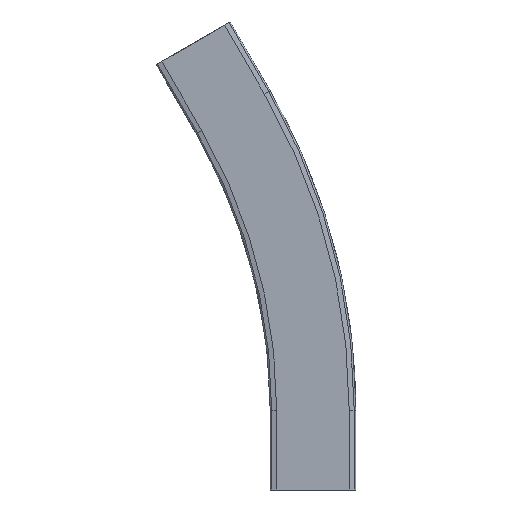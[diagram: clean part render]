
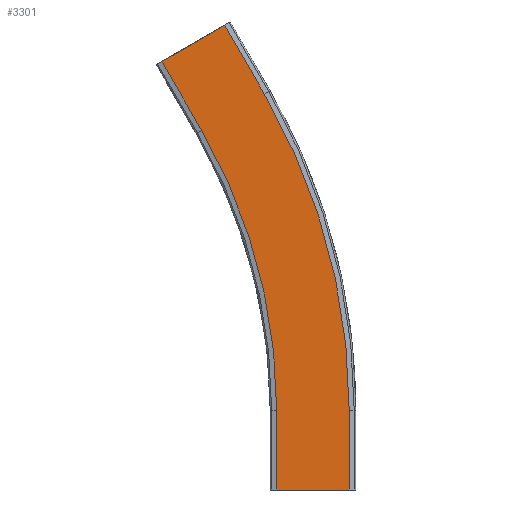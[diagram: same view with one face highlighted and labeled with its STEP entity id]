
A CAD part, front view. The second image highlights one B-rep face of the part: STEP entity #3301.
In plain terms, the highlighted planar face has unit normal (0, -1, 0).
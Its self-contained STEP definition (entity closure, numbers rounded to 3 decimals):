
#343=FACE_OUTER_BOUND('',#523,.T.);
#523=EDGE_LOOP('',(#3005,#3006,#3007,#3008,#3009,#3010,#3011,#3012));
#605=CIRCLE('',#3548,636.5);
#608=CIRCLE('',#3554,563.5);
#926=LINE('',#5781,#1272);
#931=LINE('',#5790,#1277);
#933=LINE('',#5795,#1279);
#948=LINE('',#5835,#1294);
#953=LINE('',#5846,#1299);
#954=LINE('',#5848,#1300);
#1272=VECTOR('',#4309,10.);
#1277=VECTOR('',#4316,10.);
#1279=VECTOR('',#4320,10.);
#1294=VECTOR('',#4361,10.);
#1299=VECTOR('',#4374,10.);
#1300=VECTOR('',#4377,10.);
#1588=VERTEX_POINT('',#5778);
#1589=VERTEX_POINT('',#5780);
#1592=VERTEX_POINT('',#5787);
#1593=VERTEX_POINT('',#5792);
#1603=VERTEX_POINT('',#5818);
#1605=VERTEX_POINT('',#5828);
#1606=VERTEX_POINT('',#5833);
#1608=VERTEX_POINT('',#5844);
#2044=EDGE_CURVE('',#1589,#1588,#926,.T.);
#2049=EDGE_CURVE('',#1589,#1592,#931,.T.);
#2051=EDGE_CURVE('',#1588,#1593,#933,.T.);
#2064=EDGE_CURVE('',#1593,#1603,#605,.T.);
#2070=EDGE_CURVE('',#1592,#1605,#608,.T.);
#2072=EDGE_CURVE('',#1603,#1606,#948,.T.);
#2077=EDGE_CURVE('',#1605,#1608,#953,.T.);
#2078=EDGE_CURVE('',#1606,#1608,#954,.T.);
#3005=ORIENTED_EDGE('',*,*,#2078,.T.);
#3006=ORIENTED_EDGE('',*,*,#2077,.F.);
#3007=ORIENTED_EDGE('',*,*,#2070,.F.);
#3008=ORIENTED_EDGE('',*,*,#2049,.F.);
#3009=ORIENTED_EDGE('',*,*,#2044,.T.);
#3010=ORIENTED_EDGE('',*,*,#2051,.T.);
#3011=ORIENTED_EDGE('',*,*,#2064,.T.);
#3012=ORIENTED_EDGE('',*,*,#2072,.T.);
#3130=PLANE('',#3560);
#3301=ADVANCED_FACE('',(#343),#3130,.T.);
#3548=AXIS2_PLACEMENT_3D('',#5820,#4341,#4342);
#3554=AXIS2_PLACEMENT_3D('',#5831,#4356,#4357);
#3560=AXIS2_PLACEMENT_3D('',#5847,#4375,#4376);
#4309=DIRECTION('',(1.,0.,0.));
#4316=DIRECTION('',(0.,0.,1.));
#4320=DIRECTION('',(0.,0.,1.));
#4341=DIRECTION('center_axis',(0.,-1.,0.));
#4342=DIRECTION('ref_axis',(1.,0.,0.));
#4356=DIRECTION('center_axis',(0.,-1.,0.));
#4357=DIRECTION('ref_axis',(1.,0.,0.));
#4361=DIRECTION('',(-0.5,0.,0.866));
#4374=DIRECTION('',(-0.5,0.,0.866));
#4375=DIRECTION('center_axis',(0.,-1.,0.));
#4376=DIRECTION('ref_axis',(0.5,0.,-0.866));
#4377=DIRECTION('',(-0.866,0.,-0.5));
#5778=CARTESIAN_POINT('',(36.5,-11.,0.));
#5780=CARTESIAN_POINT('',(-36.5,-11.,0.));
#5781=CARTESIAN_POINT('',(-36.5,-11.,0.));
#5787=CARTESIAN_POINT('',(-36.5,-11.,80.));
#5790=CARTESIAN_POINT('',(-36.5,-11.,0.));
#5792=CARTESIAN_POINT('',(36.5,-11.,80.));
#5795=CARTESIAN_POINT('',(36.5,-11.,0.));
#5818=CARTESIAN_POINT('',(-48.775,-11.,398.25));
#5820=CARTESIAN_POINT('Origin',(-600.,-11.,80.));
#5828=CARTESIAN_POINT('',(-111.995,-11.,361.75));
#5831=CARTESIAN_POINT('Origin',(-600.,-11.,80.));
#5833=CARTESIAN_POINT('',(-88.775,-11.,467.532));
#5835=CARTESIAN_POINT('',(148.305,-11.,56.898));
#5844=CARTESIAN_POINT('',(-151.995,-11.,431.032));
#5846=CARTESIAN_POINT('',(85.085,-11.,20.398));
#5847=CARTESIAN_POINT('Origin',(148.305,-11.,56.898));
#5848=CARTESIAN_POINT('',(-103.281,-11.,459.157));
